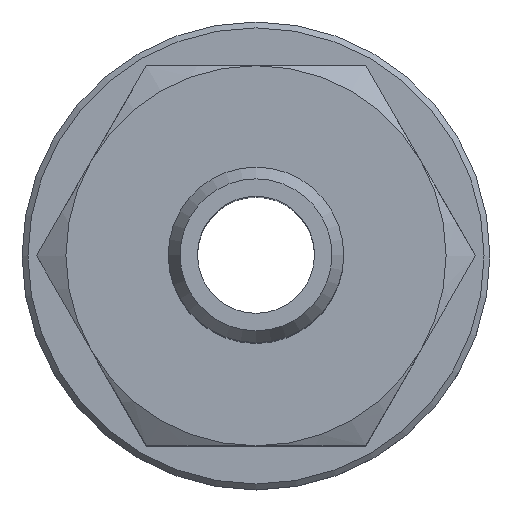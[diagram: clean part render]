
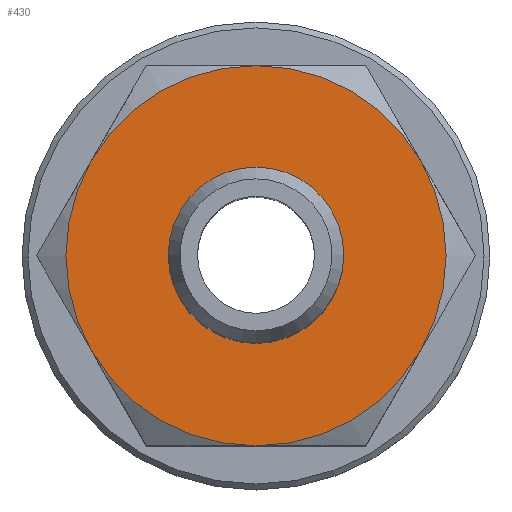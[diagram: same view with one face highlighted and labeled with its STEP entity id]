
A CAD part, top view. The second image highlights one B-rep face of the part: STEP entity #430.
In plain terms, the highlighted planar face has unit normal (0, 0, 1).
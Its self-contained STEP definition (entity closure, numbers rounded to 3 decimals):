
#430=ADVANCED_FACE('', (#440,#450), #460, .T.);
#2000=AXIS2_PLACEMENT_3D('Ax2Pl3d', #2010, #2020, #2030);
#2360=AXIS2_PLACEMENT_3D('Ax2Pl3d', #2370, #2380, #2390);
#2400=AXIS2_PLACEMENT_3D('Ax2Pl3d', #2410, #2420, #2430);
#2440=AXIS2_PLACEMENT_3D('Ax2Pl3d', #2450, #2460, #2470);
#2480=AXIS2_PLACEMENT_3D('Ax2Pl3d', #2490, #2500, #2510);
#2520=AXIS2_PLACEMENT_3D('Ax2Pl3d', #2530, #2540, #2550);
#2560=AXIS2_PLACEMENT_3D('Ax2Pl3d', #2570, #2580, #2590);
#2600=AXIS2_PLACEMENT_3D('Ax2Pl3d', #2610, #2620, #2630);
#2010=CARTESIAN_POINT('HicPkt', (12.8,15.502,
19.241));
#6260=CARTESIAN_POINT('', (18.429,12.252,19.241));
#6270=CARTESIAN_POINT('', (12.8,9.002,19.241));
#6310=CARTESIAN_POINT('', (7.171,18.752,19.241));
#6340=CARTESIAN_POINT('', (12.8,22.002,19.241));
#6370=CARTESIAN_POINT('', (18.429,18.752,19.241));
#6430=CARTESIAN_POINT('', (7.171,12.252,19.241));
#2370=CARTESIAN_POINT('HicPkt', (19.3,15.502,
19.241));
#2410=CARTESIAN_POINT('HicPkt', (12.8,15.502,
19.241));
#2450=CARTESIAN_POINT('HicPkt', (12.8,15.502,
19.241));
#2490=CARTESIAN_POINT('HicPkt', (12.8,15.502,
19.241));
#2530=CARTESIAN_POINT('HicPkt', (12.8,15.502,
19.241));
#2570=CARTESIAN_POINT('HicPkt', (12.8,15.502,
19.241));
#2610=CARTESIAN_POINT('HicPkt', (12.8,15.502,
19.241));
#6450=CARTESIAN_POINT('', (12.8,18.502,19.241));
#6760=CIRCLE('Circle', #2000, 6.5);
#6780=CIRCLE('Circle', #2400, 6.5);
#6790=CIRCLE('Circle', #2440, 6.5);
#6800=CIRCLE('Circle', #2480, 6.5);
#6810=CIRCLE('Circle', #2520, 6.5);
#6820=CIRCLE('Circle', #2560, 6.5);
#6830=CIRCLE('Circle', #2600, 3.);
#2020=DIRECTION('Axis', (0.,0.,-1.));
#2030=DIRECTION('RefDirection', (-1.,-0.,0.));
#2380=DIRECTION('Axis', (0.,0.,1.));
#2390=DIRECTION('RefDirection', (1.,0.,-0.));
#2420=DIRECTION('Axis', (0.,0.,-1.));
#2430=DIRECTION('RefDirection', (-1.,-0.,0.));
#2460=DIRECTION('Axis', (0.,0.,-1.));
#2470=DIRECTION('RefDirection', (-1.,-0.,0.));
#2500=DIRECTION('Axis', (0.,0.,-1.));
#2510=DIRECTION('RefDirection', (-1.,-0.,0.));
#2540=DIRECTION('Axis', (0.,0.,-1.));
#2550=DIRECTION('RefDirection', (-1.,-0.,0.));
#2580=DIRECTION('Axis', (0.,0.,-1.));
#2590=DIRECTION('RefDirection', (-1.,-0.,0.));
#2620=DIRECTION('Axis', (0.,0.,1.));
#2630=DIRECTION('RefDirection', (1.,0.,-0.));
#9410=EDGE_CURVE('', #9420, #9430, #6760, .T.);
#9800=EDGE_CURVE('', #9630, #9420, #6780, .T.);
#9810=EDGE_CURVE('', #9570, #9630, #6790, .T.);
#9820=EDGE_CURVE('', #9510, #9570, #6800, .T.);
#9830=EDGE_CURVE('', #9760, #9510, #6810, .T.);
#9840=EDGE_CURVE('', #9430, #9760, #6820, .T.);
#9850=EDGE_CURVE('', #9860, #9860, #6830, .T.);
#11020=EDGE_LOOP('Edge_loop', (#11030,#11040,#11050,#11060,#11070,
#11080));
#11090=EDGE_LOOP('Edge_loop', (#11100));
#450=FACE_BOUND('', #11090, .T.);
#440=FACE_OUTER_BOUND('Face_outer_bound', #11020, .T.);
#11030=ORIENTED_EDGE('', *, *, #9410, .F.);
#11040=ORIENTED_EDGE('', *, *, #9800, .F.);
#11050=ORIENTED_EDGE('', *, *, #9810, .F.);
#11060=ORIENTED_EDGE('', *, *, #9820, .F.);
#11070=ORIENTED_EDGE('', *, *, #9830, .F.);
#11080=ORIENTED_EDGE('', *, *, #9840, .F.);
#11100=ORIENTED_EDGE('', *, *, #9850, .F.);
#460=PLANE('Plane', #2360);
#9420=VERTEX_POINT('', #6260);
#9430=VERTEX_POINT('', #6270);
#9510=VERTEX_POINT('', #6310);
#9570=VERTEX_POINT('', #6340);
#9630=VERTEX_POINT('', #6370);
#9760=VERTEX_POINT('', #6430);
#9860=VERTEX_POINT('', #6450);
